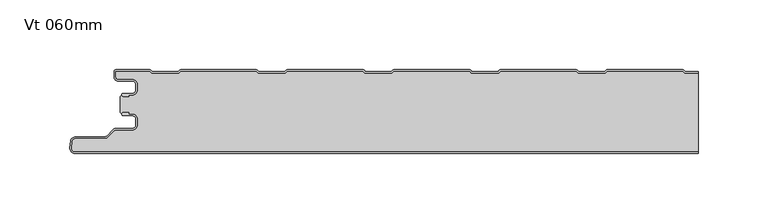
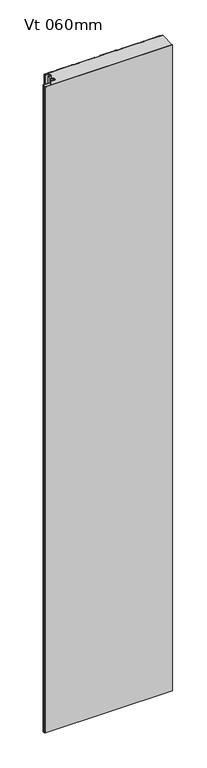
"""IFC4 building model written with IfcOpenShell, lengths in millimetres: plate geometry, KIP-MEX-KSS-1067-R19-CP-Vt-OP_SL : Vt 060mm."""

from ifc_helpers import new_model, si_unit, point, frame, frame_2d, origin, origin_with_axes, place, context, project, spatial, polyline, circle_curve, trimmed, segment, composite_curve, outline, extrude, source, transform, mapped, element, save
from ifc_brep_helpers import plane_surface, cylinder_surface, revolved_surface, advanced_brep


def vt_060mm_0d96d6be(model_context):
    return source(origin(), model_context, "Body", "SolidModel", [
        advanced_brep(
        [(-204.468691, -17.0015159, 2400.0), (-205.4686883, -18.0015191, 2400.0), (-204.468691, -19.0015105, 2400.0), (-200.4684874, -19.0015105, 2400.0), (-200.4684874, -18.0015159, 2400.0), (-197.7762776, -18.0015159, 2400.0), (-194.4762819, -14.7015202, 2400.0), (-194.4762819, -10.301529, 2400.0), (-197.7762774, -7.0015335, 2400.0), (-208.1962563, -7.0015335, 2400.0), (-209.9662505, -5.2315393, 2400.0), (-209.9662505, -0.9999916, 2400.0), (-185.4659738, -0.9999916, 2400.0), (-184.0803312, -2.2002307, 2400.0), (-164.7051649, -2.2002307, 2400.0), (-163.319532, -1.0, 2400.0), (-109.2661166, -1.0, 2400.0), (-107.8804836, -2.2002307, 2400.0), (-88.5053173, -2.2002307, 2400.0), (-87.1196844, -1.0, 2400.0), (-33.066269, -1.0, 2400.0), (-31.680636, -2.2002307, 2400.0), (-12.3054697, -2.2002307, 2400.0), (-10.9198368, -1.0, 2400.0), (43.1335786, -1.0, 2400.0), (44.5192116, -2.2002307, 2400.0), (63.8943779, -2.2002307, 2400.0), (65.2800108, -1.0, 2400.0), (119.3334262, -1.0, 2400.0), (120.7190592, -2.2002307, 2400.0), (140.0942255, -2.2002307, 2400.0), (141.4798584, -1.0, 2400.0), (195.5332738, -1.0, 2400.0), (196.9189068, -2.2002307, 2400.0), (206.4999998, -2.2002307, 2400.0), (206.4999998, -1.2002307, 2400.0), (197.2917872, -1.2002307, 2400.0), (196.3007396, -0.3417885, 2400.0), (195.3841227, 0.0, 2400.0), (141.6290096, 0.0, 2400.0), (140.7123927, -0.3417885, 2400.0), (139.7213451, -1.2002307, 2400.0), (121.0919396, -1.2002307, 2400.0), (120.100892, -0.3417885, 2400.0), (119.1842751, 0.0, 2400.0), (65.429162, 0.0, 2400.0), (64.5125451, -0.3417885, 2400.0), (63.5214975, -1.2002307, 2400.0), (44.892092, -1.2002307, 2400.0), (43.9010444, -0.3417885, 2400.0), (42.9844275, 0.0, 2400.0), (-10.7706856, 0.0, 2400.0), (-11.6873025, -0.3417885, 2400.0), (-12.6783501, -1.2002307, 2400.0), (-31.3077556, -1.2002307, 2400.0), (-32.2988032, -0.3417885, 2400.0), (-33.2154201, 0.0, 2400.0), (-86.9705332, 0.0, 2400.0), (-87.8871501, -0.3417885, 2400.0), (-88.8781977, -1.2002307, 2400.0), (-107.5076032, -1.2002307, 2400.0), (-108.4986508, -0.3417885, 2400.0), (-109.4152677, 0.0, 2400.0), (-163.1703808, 0.0, 2400.0), (-164.0869977, -0.3417885, 2400.0), (-165.0780453, -1.2002307, 2400.0), (-183.7074508, -1.2002307, 2400.0), (-184.6984984, -0.3417885, 2400.0), (-185.6152067, 0.0, 2400.0), (-209.5662543, 8.4e-06, 2400.0), (-210.9662505, -1.3999878, 2400.0), (-210.9662505, -5.2315393, 2400.0), (-208.1962563, -8.0015335, 2400.0), (-197.7762774, -8.0015335, 2400.0), (-195.4762819, -10.301529, 2400.0), (-195.4762819, -14.7015202, 2400.0), (-197.7762776, -17.0015159, 2400.0), (-204.468691, -17.0015159, 0.0), (-197.7762776, -17.0015159, 0.0), (-195.4762819, -14.7015202, 0.0), (-195.4762819, -10.301529, 0.0), (-197.7762774, -8.0015335, 0.0), (-208.1962563, -8.0015335, 0.0), (-210.9662505, -5.2315393, 0.0), (-210.9662505, -1.3999878, 0.0), (-209.5662543, 8.4e-06, 0.0), (-185.6151153, 8.4e-06, 0.0), (-184.6984984, -0.3417885, 0.0), (-183.7074508, -1.2002307, 0.0), (-165.0780453, -1.2002307, 0.0), (-164.0869977, -0.3417885, 0.0), (-163.1703808, 0.0, 0.0), (-109.4152677, 0.0, 0.0), (-108.4986508, -0.3417885, 0.0), (-107.5076032, -1.2002307, 0.0), (-88.8781977, -1.2002307, 0.0), (-87.8871501, -0.3417885, 0.0), (-86.9705332, 0.0, 0.0), (-33.2154201, 0.0, 0.0), (-32.2988032, -0.3417885, 0.0), (-31.3077556, -1.2002307, 0.0), (-12.6783501, -1.2002307, 0.0), (-11.6873025, -0.3417885, 0.0), (-10.7706856, 0.0, 0.0), (42.9844275, 0.0, 0.0), (43.9010444, -0.3417885, 0.0), (44.892092, -1.2002307, 0.0), (63.5214975, -1.2002307, 0.0), (64.5125451, -0.3417885, 0.0), (65.429162, 0.0, 0.0), (119.1842751, 0.0, 0.0), (120.100892, -0.3417885, 0.0), (121.0919396, -1.2002307, 0.0), (139.7213451, -1.2002307, 0.0), (140.7123927, -0.3417885, 0.0), (141.6290096, 0.0, 0.0), (195.3841227, 0.0, 0.0), (196.3007396, -0.3417885, 0.0), (197.2917872, -1.2002307, 0.0), (206.4999998, -1.2002307, 0.0), (206.4999998, -2.2002307, 0.0), (196.9189068, -2.2002307, 0.0), (195.5332738, -1.0, 0.0), (141.4798584, -1.0, 0.0), (140.0942255, -2.2002307, 0.0), (120.7190592, -2.2002307, 0.0), (119.3334262, -1.0, 0.0), (65.2800108, -1.0, 0.0), (63.8943779, -2.2002307, 0.0), (44.5192116, -2.2002307, 0.0), (43.1335786, -1.0, 0.0), (-10.9198368, -1.0, 0.0), (-12.3054697, -2.2002307, 0.0), (-31.680636, -2.2002307, 0.0), (-33.066269, -1.0, 0.0), (-87.1196844, -1.0, 0.0), (-88.5053173, -2.2002307, 0.0), (-107.8804836, -2.2002307, 0.0), (-109.2661166, -1.0, 0.0), (-163.319532, -1.0, 0.0), (-164.7051649, -2.2002307, 0.0), (-184.0803312, -2.2002307, 0.0), (-185.4659738, -0.9999916, 0.0), (-209.9662505, -0.9999916, 0.0), (-209.9662505, -5.2315393, 0.0), (-208.1962563, -7.0015335, 0.0), (-197.7762774, -7.0015335, 0.0), (-194.4762819, -10.301529, 0.0), (-194.4762819, -14.7015202, 0.0), (-197.7762776, -18.0015159, 0.0), (-200.4684874, -18.0015159, 0.0), (-200.4684874, -19.0015105, 0.0), (-204.468691, -19.0015105, 0.0), (-205.4686882, -18.0015192, 0.0)],
        [
            (0, 1, circle_curve(frame((-204.468691, -18.0015132, 2400.0), z_axis=(0.0, 0.0, 1.0), x_axis=(1.0, 0.0, 0.0)), 0.9999973)),
            (1, 2, circle_curve(frame((-204.468691, -18.0015133, 2400.0), z_axis=(0.0, 0.0, 1.0), x_axis=(1.0, 0.0, 0.0)), 0.9999972)),
            (2, 3),
            (3, 4),
            (4, 5),
            (5, 6, circle_curve(frame((-197.7762776, -14.7015202, 2400.0), z_axis=(0.0, 0.0, 1.0), x_axis=(1.0, 0.0, 0.0)), 3.2999957)),
            (6, 7),
            (7, 8, circle_curve(frame((-197.7762774, -10.301529, 2400.0), z_axis=(0.0, 0.0, 1.0), x_axis=(1.0, 0.0, 0.0)), 3.2999955)),
            (8, 9),
            (9, 10, circle_curve(frame((-208.1962563, -5.2315393, 2400.0), z_axis=(0.0, 0.0, -1.0), x_axis=(1.0, 0.0, 0.0)), 1.7699942)),
            (10, 11),
            (11, 12),
            (12, 13),
            (13, 14),
            (14, 15),
            (15, 16),
            (16, 17),
            (17, 18),
            (18, 19),
            (19, 20),
            (20, 21),
            (21, 22),
            (22, 23),
            (23, 24),
            (24, 25),
            (25, 26),
            (26, 27),
            (27, 28),
            (28, 29),
            (29, 30),
            (30, 31),
            (31, 32),
            (32, 33),
            (33, 34),
            (34, 35),
            (35, 36),
            (36, 37),
            (37, 38, circle_curve(frame((195.3841227, -1.3999972, 2400.0), z_axis=(0.0, 0.0, 1.0), x_axis=(1.0, 0.0, 0.0)), 1.3999972)),
            (38, 39),
            (39, 40, circle_curve(frame((141.6290096, -1.3999972, 2400.0), z_axis=(0.0, 0.0, 1.0), x_axis=(1.0, 0.0, 0.0)), 1.3999972)),
            (40, 41),
            (41, 42),
            (42, 43),
            (43, 44, circle_curve(frame((119.1842751, -1.3999972, 2400.0), z_axis=(0.0, 0.0, 1.0), x_axis=(1.0, 0.0, 0.0)), 1.3999972)),
            (44, 45),
            (45, 46, circle_curve(frame((65.429162, -1.3999972, 2400.0), z_axis=(0.0, 0.0, 1.0), x_axis=(1.0, 0.0, 0.0)), 1.3999972)),
            (46, 47),
            (47, 48),
            (48, 49),
            (49, 50, circle_curve(frame((42.9844275, -1.3999972, 2400.0), z_axis=(0.0, 0.0, 1.0), x_axis=(1.0, 0.0, 0.0)), 1.3999972)),
            (50, 51),
            (51, 52, circle_curve(frame((-10.7706856, -1.3999972, 2400.0), z_axis=(0.0, 0.0, 1.0), x_axis=(1.0, 0.0, 0.0)), 1.3999972)),
            (52, 53),
            (53, 54),
            (54, 55),
            (55, 56, circle_curve(frame((-33.2154201, -1.3999972, 2400.0), z_axis=(0.0, 0.0, 1.0), x_axis=(1.0, 0.0, 0.0)), 1.3999972)),
            (56, 57),
            (57, 58, circle_curve(frame((-86.9705332, -1.3999972, 2400.0), z_axis=(0.0, 0.0, 1.0), x_axis=(1.0, 0.0, 0.0)), 1.3999972)),
            (58, 59),
            (59, 60),
            (60, 61),
            (61, 62, circle_curve(frame((-109.4152677, -1.3999972, 2400.0), z_axis=(0.0, 0.0, 1.0), x_axis=(1.0, 0.0, 0.0)), 1.3999972)),
            (62, 63),
            (63, 64, circle_curve(frame((-163.1703808, -1.3999972, 2400.0), z_axis=(0.0, 0.0, 1.0), x_axis=(1.0, 0.0, 0.0)), 1.3999972)),
            (64, 65),
            (65, 66),
            (66, 67),
            (67, 68, circle_curve(frame((-185.6151153, -1.3999972, 2400.0), z_axis=(0.0, 0.0, 1.0), x_axis=(1.0, 0.0, 0.0)), 1.3999972)),
            (68, 69),
            (69, 70, circle_curve(frame((-209.5662543, -1.3999878, 2400.0), z_axis=(0.0, 0.0, 1.0), x_axis=(1.0, 0.0, 0.0)), 1.3999962)),
            (70, 71),
            (71, 72, circle_curve(frame((-208.1962563, -5.2315393, 2400.0), z_axis=(0.0, 0.0, 1.0), x_axis=(1.0, 0.0, 0.0)), 2.7699942)),
            (72, 73),
            (73, 74, circle_curve(frame((-197.7762774, -10.301529, 2400.0), z_axis=(0.0, 0.0, -1.0), x_axis=(1.0, 0.0, 0.0)), 2.2999955)),
            (74, 75),
            (75, 76, circle_curve(frame((-197.7762776, -14.7015202, 2400.0), z_axis=(0.0, 0.0, -1.0), x_axis=(1.0, 0.0, 0.0)), 2.2999957)),
            (76, 0),
            (77, 78),
            (78, 79, circle_curve(frame((-197.7762776, -14.7015202, 0.0), z_axis=(0.0, 0.0, 1.0), x_axis=(1.0, 0.0, 0.0)), 2.2999957)),
            (79, 80),
            (80, 81, circle_curve(frame((-197.7762774, -10.301529, 0.0), z_axis=(0.0, 0.0, 1.0), x_axis=(1.0, 0.0, 0.0)), 2.2999955)),
            (81, 82),
            (82, 83, circle_curve(frame((-208.1962563, -5.2315393, 0.0), z_axis=(0.0, 0.0, -1.0), x_axis=(1.0, 0.0, 0.0)), 2.7699942)),
            (83, 84),
            (84, 85, circle_curve(frame((-209.5662543, -1.3999878, 0.0), z_axis=(0.0, 0.0, -1.0), x_axis=(1.0, 0.0, 0.0)), 1.3999962)),
            (85, 86),
            (86, 87, circle_curve(frame((-185.6151153, -1.3999972, 0.0), z_axis=(0.0, 0.0, -1.0), x_axis=(1.0, 0.0, 0.0)), 1.3999972)),
            (87, 88),
            (88, 89),
            (89, 90),
            (90, 91, circle_curve(frame((-163.1703808, -1.3999972, 0.0), z_axis=(0.0, 0.0, -1.0), x_axis=(1.0, 0.0, 0.0)), 1.3999972)),
            (91, 92),
            (92, 93, circle_curve(frame((-109.4152677, -1.3999972, 0.0), z_axis=(0.0, 0.0, -1.0), x_axis=(1.0, 0.0, 0.0)), 1.3999972)),
            (93, 94),
            (94, 95),
            (95, 96),
            (96, 97, circle_curve(frame((-86.9705332, -1.3999972, 0.0), z_axis=(0.0, 0.0, -1.0), x_axis=(1.0, 0.0, 0.0)), 1.3999972)),
            (97, 98),
            (98, 99, circle_curve(frame((-33.2154201, -1.3999972, 0.0), z_axis=(0.0, 0.0, -1.0), x_axis=(1.0, 0.0, 0.0)), 1.3999972)),
            (99, 100),
            (100, 101),
            (101, 102),
            (102, 103, circle_curve(frame((-10.7706856, -1.3999972, 0.0), z_axis=(0.0, 0.0, -1.0), x_axis=(1.0, 0.0, 0.0)), 1.3999972)),
            (103, 104),
            (104, 105, circle_curve(frame((42.9844275, -1.3999972, 0.0), z_axis=(0.0, 0.0, -1.0), x_axis=(1.0, 0.0, 0.0)), 1.3999972)),
            (105, 106),
            (106, 107),
            (107, 108),
            (108, 109, circle_curve(frame((65.429162, -1.3999972, 0.0), z_axis=(0.0, 0.0, -1.0), x_axis=(1.0, 0.0, 0.0)), 1.3999972)),
            (109, 110),
            (110, 111, circle_curve(frame((119.1842751, -1.3999972, 0.0), z_axis=(0.0, 0.0, -1.0), x_axis=(1.0, 0.0, 0.0)), 1.3999972)),
            (111, 112),
            (112, 113),
            (113, 114),
            (114, 115, circle_curve(frame((141.6290096, -1.3999972, 0.0), z_axis=(0.0, 0.0, -1.0), x_axis=(1.0, 0.0, 0.0)), 1.3999972)),
            (115, 116),
            (116, 117, circle_curve(frame((195.3841227, -1.3999972, 0.0), z_axis=(0.0, 0.0, -1.0), x_axis=(1.0, 0.0, 0.0)), 1.3999972)),
            (117, 118),
            (118, 119),
            (119, 120),
            (120, 121),
            (121, 122),
            (122, 123),
            (123, 124),
            (124, 125),
            (125, 126),
            (126, 127),
            (127, 128),
            (128, 129),
            (129, 130),
            (130, 131),
            (131, 132),
            (132, 133),
            (133, 134),
            (134, 135),
            (135, 136),
            (136, 137),
            (137, 138),
            (138, 139),
            (139, 140),
            (140, 141),
            (141, 142),
            (142, 143),
            (143, 144),
            (144, 145, circle_curve(frame((-208.1962563, -5.2315393, 0.0), z_axis=(0.0, 0.0, 1.0), x_axis=(1.0, 0.0, 0.0)), 1.7699942)),
            (145, 146),
            (146, 147, circle_curve(frame((-197.7762774, -10.301529, 0.0), z_axis=(0.0, 0.0, -1.0), x_axis=(1.0, 0.0, 0.0)), 3.2999955)),
            (147, 148),
            (148, 149, circle_curve(frame((-197.7762776, -14.7015202, 0.0), z_axis=(0.0, 0.0, -1.0), x_axis=(1.0, 0.0, 0.0)), 3.2999957)),
            (149, 150),
            (150, 151),
            (151, 152),
            (152, 153, circle_curve(frame((-204.468691, -18.0015133, 0.0), z_axis=(0.0, 0.0, -1.0), x_axis=(1.0, 0.0, 0.0)), 0.9999972)),
            (153, 77, circle_curve(frame((-204.468691, -18.0015132, 0.0), z_axis=(0.0, 0.0, -1.0), x_axis=(1.0, 0.0, 0.0)), 0.9999973)),
            (76, 78),
            (77, 0),
            (75, 79),
            (74, 80),
            (73, 81),
            (72, 82),
            (71, 83),
            (70, 84),
            (69, 85),
            (68, 86),
            (67, 87),
            (66, 88),
            (65, 89),
            (64, 90),
            (63, 91),
            (62, 92),
            (61, 93),
            (60, 94),
            (59, 95),
            (58, 96),
            (57, 97),
            (56, 98),
            (55, 99),
            (54, 100),
            (53, 101),
            (52, 102),
            (51, 103),
            (50, 104),
            (49, 105),
            (48, 106),
            (47, 107),
            (46, 108),
            (45, 109),
            (44, 110),
            (43, 111),
            (42, 112),
            (41, 113),
            (40, 114),
            (39, 115),
            (38, 116),
            (37, 117),
            (36, 118),
            (35, 119),
            (120, 34),
            (33, 121),
            (32, 122),
            (31, 123),
            (30, 124),
            (29, 125),
            (28, 126),
            (27, 127),
            (26, 128),
            (25, 129),
            (24, 130),
            (23, 131),
            (22, 132),
            (21, 133),
            (20, 134),
            (19, 135),
            (18, 136),
            (17, 137),
            (16, 138),
            (15, 139),
            (14, 140),
            (13, 141),
            (12, 142),
            (11, 143),
            (10, 144),
            (9, 145),
            (8, 146),
            (7, 147),
            (6, 148),
            (5, 149),
            (4, 150),
            (3, 151),
            (2, 152),
            (1, 153),
        ],
        [
            plane_surface(frame((326.9000002, 0.0, 2400.0), z_axis=(0.0, 0.0, 1.0), x_axis=(0.0, 1.0, 0.0))),
            plane_surface(frame((326.9000002, 0.0, 0.0), z_axis=(0.0, 0.0, -1.0), x_axis=(0.0, 1.0, 0.0))),
            plane_surface(frame((-204.468691, -17.0015159, 2400.0), z_axis=(0.0, 1.0, 0.0), x_axis=(0.0, 0.0, -1.0))),
            revolved_surface(polyline([(-195.47628189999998, -14.7015202, 0.0), (-195.47628189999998, -14.7015202, 2400.0)]), (-197.7762776, -14.7015202, 2400.0), (0.0, 0.0, -1.0)),
            plane_surface(frame((-195.4762819, -14.7015202, 2400.0), z_axis=(-1.0, 0.0, 0.0), x_axis=(0.0, 0.0, -1.0))),
            revolved_surface(polyline([(-195.4762819, -10.301529, 0.0), (-195.4762819, -10.301529, 2400.0)]), (-197.7762774, -10.301529, 2400.0), (0.0, 0.0, -1.0)),
            plane_surface(frame((-197.7762774, -8.0015335, 2400.0), z_axis=(0.0, -1.0, 0.0), x_axis=(0.0, 0.0, -1.0))),
            cylinder_surface(frame((-208.1962563, -5.2315393, 2400.0), z_axis=(0.0, 0.0, 1.0), x_axis=(1.0, 0.0, 0.0)), 2.7699942),
            plane_surface(frame((-210.9662505, -5.2315393, 2400.0), z_axis=(-1.0, 0.0, 0.0), x_axis=(0.0, 0.0, -1.0))),
            cylinder_surface(frame((-209.5662543, -1.3999878, 2400.0), z_axis=(0.0, 0.0, 1.0), x_axis=(1.0, 0.0, 0.0)), 1.3999962),
            plane_surface(frame((-209.5662543, 8.4e-06, 2400.0), z_axis=(0.0, 1.0, 0.0), x_axis=(0.0, 0.0, -1.0))),
            cylinder_surface(frame((-185.6151153, -1.3999972, 2400.0), z_axis=(0.0, 0.0, 1.0), x_axis=(1.0, 0.0, 0.0)), 1.3999972),
            plane_surface(frame((-184.6984984, -0.3417885, 2400.0), z_axis=(0.6547276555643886, 0.755864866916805, 0.0), x_axis=(0.0, 0.0, -1.0))),
            plane_surface(frame((-174.3927481, -1.2002307, 2400.0), z_axis=(0.0, 1.0, 0.0), x_axis=(0.0, 0.0, -1.0))),
            plane_surface(frame((-165.0780453, -1.2002307, 2400.0), z_axis=(-0.6547276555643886, 0.755864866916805, 0.0), x_axis=(0.0, 0.0, -1.0))),
            cylinder_surface(frame((-163.1703808, -1.3999972, 2400.0), z_axis=(0.0, 0.0, 1.0), x_axis=(1.0, 0.0, 0.0)), 1.3999972),
            plane_surface(frame((-163.1703808, 0.0, 2400.0), z_axis=(0.0, 1.0, 0.0), x_axis=(0.0, 0.0, -1.0))),
            cylinder_surface(frame((-109.4152677, -1.3999972, 2400.0), z_axis=(0.0, 0.0, 1.0), x_axis=(1.0, 0.0, 0.0)), 1.3999972),
            plane_surface(frame((-108.4986508, -0.3417885, 2400.0), z_axis=(0.6547276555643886, 0.755864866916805, 0.0), x_axis=(0.0, 0.0, -1.0))),
            plane_surface(frame((-98.1929005, -1.2002307, 2400.0), z_axis=(0.0, 1.0, 0.0), x_axis=(0.0, 0.0, -1.0))),
            plane_surface(frame((-88.8781977, -1.2002307, 2400.0), z_axis=(-0.6547276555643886, 0.755864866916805, 0.0), x_axis=(0.0, 0.0, -1.0))),
            cylinder_surface(frame((-86.9705332, -1.3999972, 2400.0), z_axis=(0.0, 0.0, 1.0), x_axis=(1.0, 0.0, 0.0)), 1.3999972),
            plane_surface(frame((-86.9705332, 0.0, 2400.0), z_axis=(0.0, 1.0, 0.0), x_axis=(0.0, 0.0, -1.0))),
            cylinder_surface(frame((-33.2154201, -1.3999972, 2400.0), z_axis=(0.0, 0.0, 1.0), x_axis=(1.0, 0.0, 0.0)), 1.3999972),
            plane_surface(frame((-32.2988032, -0.3417885, 2400.0), z_axis=(0.6547276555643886, 0.755864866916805, 0.0), x_axis=(0.0, 0.0, -1.0))),
            plane_surface(frame((-21.9930529, -1.2002307, 2400.0), z_axis=(0.0, 1.0, 0.0), x_axis=(0.0, 0.0, -1.0))),
            plane_surface(frame((-12.6783501, -1.2002307, 2400.0), z_axis=(-0.6547276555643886, 0.755864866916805, 0.0), x_axis=(0.0, 0.0, -1.0))),
            cylinder_surface(frame((-10.7706856, -1.3999972, 2400.0), z_axis=(0.0, 0.0, 1.0), x_axis=(1.0, 0.0, 0.0)), 1.3999972),
            plane_surface(frame((-10.7706856, 0.0, 2400.0), z_axis=(0.0, 1.0, 0.0), x_axis=(0.0, 0.0, -1.0))),
            cylinder_surface(frame((42.9844275, -1.3999972, 2400.0), z_axis=(0.0, 0.0, 1.0), x_axis=(1.0, 0.0, 0.0)), 1.3999972),
            plane_surface(frame((43.9010444, -0.3417885, 2400.0), z_axis=(0.6547276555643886, 0.755864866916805, 0.0), x_axis=(0.0, 0.0, -1.0))),
            plane_surface(frame((54.2067947, -1.2002307, 2400.0), z_axis=(0.0, 1.0, 0.0), x_axis=(0.0, 0.0, -1.0))),
            plane_surface(frame((63.5214975, -1.2002307, 2400.0), z_axis=(-0.6547276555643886, 0.755864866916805, 0.0), x_axis=(0.0, 0.0, -1.0))),
            cylinder_surface(frame((65.429162, -1.3999972, 2400.0), z_axis=(0.0, 0.0, 1.0), x_axis=(1.0, 0.0, 0.0)), 1.3999972),
            plane_surface(frame((65.429162, 0.0, 2400.0), z_axis=(0.0, 1.0, 0.0), x_axis=(0.0, 0.0, -1.0))),
            cylinder_surface(frame((119.1842751, -1.3999972, 2400.0), z_axis=(0.0, 0.0, 1.0), x_axis=(1.0, 0.0, 0.0)), 1.3999972),
            plane_surface(frame((120.100892, -0.3417885, 2400.0), z_axis=(0.6547276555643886, 0.755864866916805, 0.0), x_axis=(0.0, 0.0, -1.0))),
            plane_surface(frame((130.4066423, -1.2002307, 2400.0), z_axis=(0.0, 1.0, 0.0), x_axis=(0.0, 0.0, -1.0))),
            plane_surface(frame((139.7213451, -1.2002307, 2400.0), z_axis=(-0.6547276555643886, 0.755864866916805, 0.0), x_axis=(0.0, 0.0, -1.0))),
            cylinder_surface(frame((141.6290096, -1.3999972, 2400.0), z_axis=(0.0, 0.0, 1.0), x_axis=(1.0, 0.0, 0.0)), 1.3999972),
            plane_surface(frame((141.6290096, 0.0, 2400.0), z_axis=(0.0, 1.0, 0.0), x_axis=(0.0, 0.0, -1.0))),
            cylinder_surface(frame((195.3841227, -1.3999972, 2400.0), z_axis=(0.0, 0.0, 1.0), x_axis=(1.0, 0.0, 0.0)), 1.3999972),
            plane_surface(frame((196.3007396, -0.3417885, 2400.0), z_axis=(0.6547276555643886, 0.755864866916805, 0.0), x_axis=(0.0, 0.0, -1.0))),
            plane_surface(frame((206.6064899, -1.2002307, 2400.0), z_axis=(0.0, 1.0, 0.0), x_axis=(0.0, 0.0, -1.0))),
            plane_surface(frame((216.2940731, -2.2002307, 2400.0), z_axis=(0.0, -1.0, 0.0), x_axis=(0.0, 0.0, -1.0))),
            plane_surface(frame((196.9189068, -2.2002307, 2400.0), z_axis=(-0.6547276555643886, -0.755864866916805, 0.0), x_axis=(0.0, 0.0, -1.0))),
            plane_surface(frame((195.5332738, -1.0, 2400.0), z_axis=(0.0, -1.0, 0.0), x_axis=(0.0, 0.0, -1.0))),
            plane_surface(frame((141.4798584, -1.0, 2400.0), z_axis=(0.6547276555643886, -0.755864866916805, 0.0), x_axis=(0.0, 0.0, -1.0))),
            plane_surface(frame((140.0942255, -2.2002307, 2400.0), z_axis=(0.0, -1.0, 0.0), x_axis=(0.0, 0.0, -1.0))),
            plane_surface(frame((120.7190592, -2.2002307, 2400.0), z_axis=(-0.6547276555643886, -0.755864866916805, 0.0), x_axis=(0.0, 0.0, -1.0))),
            plane_surface(frame((119.3334262, -1.0, 2400.0), z_axis=(0.0, -1.0, 0.0), x_axis=(0.0, 0.0, -1.0))),
            plane_surface(frame((65.2800108, -1.0, 2400.0), z_axis=(0.6547276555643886, -0.755864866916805, 0.0), x_axis=(0.0, 0.0, -1.0))),
            plane_surface(frame((63.8943779, -2.2002307, 2400.0), z_axis=(0.0, -1.0, 0.0), x_axis=(0.0, 0.0, -1.0))),
            plane_surface(frame((44.5192116, -2.2002307, 2400.0), z_axis=(-0.6547276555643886, -0.755864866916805, 0.0), x_axis=(0.0, 0.0, -1.0))),
            plane_surface(frame((43.1335786, -1.0, 2400.0), z_axis=(0.0, -1.0, 0.0), x_axis=(0.0, 0.0, -1.0))),
            plane_surface(frame((-10.9198368, -1.0, 2400.0), z_axis=(0.6547276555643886, -0.755864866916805, 0.0), x_axis=(0.0, 0.0, -1.0))),
            plane_surface(frame((-12.3054697, -2.2002307, 2400.0), z_axis=(0.0, -1.0, 0.0), x_axis=(0.0, 0.0, -1.0))),
            plane_surface(frame((-31.680636, -2.2002307, 2400.0), z_axis=(-0.6547276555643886, -0.755864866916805, 0.0), x_axis=(0.0, 0.0, -1.0))),
            plane_surface(frame((-33.066269, -1.0, 2400.0), z_axis=(0.0, -1.0, 0.0), x_axis=(0.0, 0.0, -1.0))),
            plane_surface(frame((-87.1196844, -1.0, 2400.0), z_axis=(0.6547276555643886, -0.755864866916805, 0.0), x_axis=(0.0, 0.0, -1.0))),
            plane_surface(frame((-88.5053173, -2.2002307, 2400.0), z_axis=(0.0, -1.0, 0.0), x_axis=(0.0, 0.0, -1.0))),
            plane_surface(frame((-107.8804836, -2.2002307, 2400.0), z_axis=(-0.6547276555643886, -0.755864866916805, 0.0), x_axis=(0.0, 0.0, -1.0))),
            plane_surface(frame((-109.2661166, -1.0, 2400.0), z_axis=(0.0, -1.0, 0.0), x_axis=(0.0, 0.0, -1.0))),
            plane_surface(frame((-163.319532, -1.0, 2400.0), z_axis=(0.6547276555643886, -0.755864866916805, 0.0), x_axis=(0.0, 0.0, -1.0))),
            plane_surface(frame((-164.7051649, -2.2002307, 2400.0), z_axis=(0.0, -1.0, 0.0), x_axis=(0.0, 0.0, -1.0))),
            plane_surface(frame((-184.0803312, -2.2002307, 2400.0), z_axis=(-0.6547276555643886, -0.755864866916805, 0.0), x_axis=(0.0, 0.0, -1.0))),
            plane_surface(frame((-185.4659738, -0.9999916, 2400.0), z_axis=(0.0, -1.0, 0.0), x_axis=(0.0, 0.0, -1.0))),
            plane_surface(frame((-209.9662505, -0.9999916, 2400.0), z_axis=(1.0, 0.0, 0.0), x_axis=(0.0, 0.0, -1.0))),
            revolved_surface(polyline([(-206.42626209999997, -5.2315393, 0.0), (-206.42626209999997, -5.2315393, 2400.0)]), (-208.1962563, -5.2315393, 2400.0), (0.0, 0.0, -1.0)),
            plane_surface(frame((-208.1962563, -7.0015335, 2400.0), z_axis=(0.0, 1.0, 0.0), x_axis=(0.0, 0.0, -1.0))),
            cylinder_surface(frame((-197.7762774, -10.301529, 2400.0), z_axis=(0.0, 0.0, 1.0), x_axis=(1.0, 0.0, 0.0)), 3.2999955),
            plane_surface(frame((-194.4762819, -10.301529, 2400.0), z_axis=(1.0, 0.0, 0.0), x_axis=(0.0, 0.0, -1.0))),
            cylinder_surface(frame((-197.7762776, -14.7015202, 2400.0), z_axis=(0.0, 0.0, 1.0), x_axis=(1.0, 0.0, 0.0)), 3.2999957),
            plane_surface(frame((-197.7762776, -18.0015159, 2400.0), z_axis=(0.0, -1.0, 0.0), x_axis=(0.0, 0.0, -1.0))),
            plane_surface(frame((-200.4684874, -18.0015159, 2400.0), z_axis=(1.0, 0.0, 0.0), x_axis=(0.0, 0.0, -1.0))),
            plane_surface(frame((-200.4684874, -19.0015105, 2400.0), z_axis=(0.0, -1.0, 0.0), x_axis=(0.0, 0.0, -1.0))),
            cylinder_surface(frame((-204.468691, -18.0015133, 2400.0), z_axis=(0.0, 0.0, 1.0), x_axis=(1.0, 0.0, 0.0)), 0.9999972),
            cylinder_surface(frame((-204.468691, -18.0015132, 2400.0), z_axis=(0.0, 0.0, 1.0), x_axis=(1.0, 0.0, 0.0)), 0.9999973),
            plane_surface(frame((206.4999998, -70.0, 2400.0), z_axis=(1.0, 0.0, 0.0), x_axis=(0.0, 0.0, -1.0))),
        ],
        [
            (0, [[1, 2, 3, 4, 5, 6, 7, 8, 9, 10, 11, 12, 13, 14, 15, 16, 17, 18, 19, 20, 21, 22, 23, 24, 25, 26, 27, 28, 29, 30, 31, 32, 33, 34, 35, 36, 37, 38, 39, 40, 41, 42, 43, 44, 45, 46, 47, 48, 49, 50, 51, 52, 53, 54, 55, 56, 57, 58, 59, 60, 61, 62, 63, 64, 65, 66, 67, 68, 69, 70, 71, 72, 73, 74, 75, 76, 77]]),
            (1, [[78, 79, 80, 81, 82, 83, 84, 85, 86, 87, 88, 89, 90, 91, 92, 93, 94, 95, 96, 97, 98, 99, 100, 101, 102, 103, 104, 105, 106, 107, 108, 109, 110, 111, 112, 113, 114, 115, 116, 117, 118, 119, 120, 121, 122, 123, 124, 125, 126, 127, 128, 129, 130, 131, 132, 133, 134, 135, 136, 137, 138, 139, 140, 141, 142, 143, 144, 145, 146, 147, 148, 149, 150, 151, 152, 153, 154]]),
            (2, [[155, -78, 156, -77]]),
            (3, [[157, -79, -155, -76]]),
            (4, [[158, -80, -157, -75]]),
            (5, [[159, -81, -158, -74]]),
            (6, [[160, -82, -159, -73]]),
            (7, [[161, -83, -160, -72]]),
            (8, [[162, -84, -161, -71]]),
            (9, [[163, -85, -162, -70]]),
            (10, [[164, -86, -163, -69]]),
            (11, [[165, -87, -164, -68]]),
            (12, [[166, -88, -165, -67]]),
            (13, [[167, -89, -166, -66]]),
            (14, [[168, -90, -167, -65]]),
            (15, [[169, -91, -168, -64]]),
            (16, [[170, -92, -169, -63]]),
            (17, [[171, -93, -170, -62]]),
            (18, [[172, -94, -171, -61]]),
            (19, [[173, -95, -172, -60]]),
            (20, [[174, -96, -173, -59]]),
            (21, [[175, -97, -174, -58]]),
            (22, [[176, -98, -175, -57]]),
            (23, [[177, -99, -176, -56]]),
            (24, [[178, -100, -177, -55]]),
            (25, [[179, -101, -178, -54]]),
            (26, [[180, -102, -179, -53]]),
            (27, [[181, -103, -180, -52]]),
            (28, [[182, -104, -181, -51]]),
            (29, [[183, -105, -182, -50]]),
            (30, [[184, -106, -183, -49]]),
            (31, [[185, -107, -184, -48]]),
            (32, [[186, -108, -185, -47]]),
            (33, [[187, -109, -186, -46]]),
            (34, [[188, -110, -187, -45]]),
            (35, [[189, -111, -188, -44]]),
            (36, [[190, -112, -189, -43]]),
            (37, [[191, -113, -190, -42]]),
            (38, [[192, -114, -191, -41]]),
            (39, [[193, -115, -192, -40]]),
            (40, [[194, -116, -193, -39]]),
            (41, [[195, -117, -194, -38]]),
            (42, [[196, -118, -195, -37]]),
            (43, [[-36, 197, -119, -196]]),
            (44, [[-121, 198, -34, 199]]),
            (45, [[200, -122, -199, -33]]),
            (46, [[201, -123, -200, -32]]),
            (47, [[202, -124, -201, -31]]),
            (48, [[203, -125, -202, -30]]),
            (49, [[204, -126, -203, -29]]),
            (50, [[205, -127, -204, -28]]),
            (51, [[206, -128, -205, -27]]),
            (52, [[207, -129, -206, -26]]),
            (53, [[208, -130, -207, -25]]),
            (54, [[209, -131, -208, -24]]),
            (55, [[210, -132, -209, -23]]),
            (56, [[211, -133, -210, -22]]),
            (57, [[212, -134, -211, -21]]),
            (58, [[213, -135, -212, -20]]),
            (59, [[214, -136, -213, -19]]),
            (60, [[215, -137, -214, -18]]),
            (61, [[216, -138, -215, -17]]),
            (62, [[217, -139, -216, -16]]),
            (63, [[218, -140, -217, -15]]),
            (64, [[219, -141, -218, -14]]),
            (65, [[220, -142, -219, -13]]),
            (66, [[221, -143, -220, -12]]),
            (67, [[222, -144, -221, -11]]),
            (68, [[223, -145, -222, -10]]),
            (69, [[224, -146, -223, -9]]),
            (70, [[225, -147, -224, -8]]),
            (71, [[226, -148, -225, -7]]),
            (72, [[227, -149, -226, -6]]),
            (73, [[228, -150, -227, -5]]),
            (74, [[229, -151, -228, -4]]),
            (75, [[230, -152, -229, -3]]),
            (76, [[231, -153, -230, -2]]),
            (77, [[-156, -154, -231, -1]]),
            (78, [[-198, -120, -197, -35]]),
        ],
    ),
        extrude(outline(composite_curve([segment(polyline([(-242.5087619, -56.1184903), (-242.0690674, -51.0944437)]), True, "CONTINUOUS"), segment(trimmed(circle_curve(frame_2d((-238.4198391, -51.7052448)), 3.6999926), [point((-242.0690674, -51.0944437))], [point((-238.4198391, -48.0052522))], False, "CARTESIAN"), True, "CONTINUOUS"), segment(polyline([(-238.4198391, -48.0052522), (-217.2773995, -48.0052522)]), True, "CONTINUOUS"), segment(trimmed(circle_curve(frame_2d((-217.2773995, -46.7052548)), 1.2999974), [point((-217.2773995, -48.0052522))], [point((-216.3581626, -47.6244918))], True, "CARTESIAN"), True, "CONTINUOUS"), segment(polyline([(-216.3581626, -47.6244918), (-211.5297451, -42.7960743)]), True, "CONTINUOUS"), segment(trimmed(circle_curve(frame_2d((-209.6205606, -44.7052588)), 2.6999946), [point((-211.5297451, -42.7960743))], [point((-209.6205606, -42.0052642))], False, "CARTESIAN"), True, "CONTINUOUS"), segment(polyline([(-209.6205606, -42.0052642), (-197.8096715, -42.0052642)]), True, "CONTINUOUS"), segment(trimmed(circle_curve(frame_2d((-197.8096715, -39.6552689)), 2.3499953), [point((-197.8096715, -42.0052642))], [point((-195.4596762, -39.6552689))], True, "CARTESIAN"), True, "CONTINUOUS"), segment(polyline([(-195.4596762, -39.6552689), (-195.4596762, -35.2552777)]), True, "CONTINUOUS"), segment(trimmed(circle_curve(frame_2d((-197.8096715, -35.2552777)), 2.3499953), [point((-195.4596762, -35.2552777))], [point((-197.8096715, -32.9052824))], True, "CARTESIAN"), True, "CONTINUOUS"), segment(polyline([(-197.8096715, -32.9052824), (-204.3289777, -32.9052824)]), True, "CONTINUOUS"), segment(trimmed(circle_curve(frame_2d((-204.2686906, -31.7068002)), 1.1999976), [point((-204.3289777, -32.9052824))], [point((-205.4683, -31.6762782))], False, "CARTESIAN"), True, "CONTINUOUS"), segment(trimmed(circle_curve(frame_2d((-204.2686906, -31.7068002)), 1.1999976), [point((-205.4683, -31.6762782))], [point((-204.267176, -30.5068035))], False, "CARTESIAN"), True, "CONTINUOUS"), segment(polyline([(-204.267176, -30.5068035), (-200.5087826, -30.5068035), (-200.5087826, -31.9052824), (-197.8096715, -31.9052824)]), True, "CONTINUOUS"), segment(trimmed(circle_curve(frame_2d((-197.8096715, -35.2552777)), 3.3499953), [point((-197.8096715, -31.9052824))], [point((-194.4596762, -35.2552777))], False, "CARTESIAN"), True, "CONTINUOUS"), segment(polyline([(-194.4596762, -35.2552777), (-194.4596762, -39.6552689)]), True, "CONTINUOUS"), segment(trimmed(circle_curve(frame_2d((-197.8096715, -39.6552689)), 3.3499953), [point((-194.4596762, -39.6552689))], [point((-197.8096715, -43.0052642))], False, "CARTESIAN"), True, "CONTINUOUS"), segment(polyline([(-197.8096715, -43.0052642), (-209.6205606, -43.0052642)]), True, "CONTINUOUS"), segment(trimmed(circle_curve(frame_2d((-209.6205606, -44.7052588)), 1.6999946), [point((-209.6205606, -43.0052642))], [point((-210.8226383, -43.5031811))], True, "CARTESIAN"), True, "CONTINUOUS"), segment(polyline([(-210.8226383, -43.5031811), (-216.3247094, -49.0052522), (-238.4198391, -49.0052522)]), True, "CONTINUOUS"), segment(trimmed(circle_curve(frame_2d((-238.4198391, -51.7052448)), 2.6999926), [point((-238.4198391, -49.0052522))], [point((-241.0765707, -51.2238542))], True, "CARTESIAN"), True, "CONTINUOUS"), segment(polyline([(-241.0765707, -51.2238542), (-241.5125697, -56.2056751)]), True, "CONTINUOUS"), segment(trimmed(circle_curve(frame_2d((-238.9521175, -56.4297607)), 2.5702393), [point((-241.5125697, -56.2056751))], [point((-239.0094458, -58.9993606))], True, "CARTESIAN"), True, "CONTINUOUS"), segment(polyline([(-239.0094458, -58.9993606), (206.4999998, -58.9993606), (206.4999998, -60.0), (-238.9521175, -60.0)]), True, "CONTINUOUS"), segment(trimmed(circle_curve(frame_2d((-238.9521175, -56.4297607)), 3.5702393), [point((-238.9521175, -60.0))], [point((-242.5087619, -56.1184903))], False, "CARTESIAN"), True, "CONTINUOUS")], self_intersect=False)), origin_with_axes(), (0.0, 0.0, 1.0), 2400.0),
        advanced_brep(
        [(-205.4683, -31.670875, 2400.0), (-204.267176, -30.5014003, 2400.0), (-200.5087826, -30.5014003, 2400.0), (-200.5087826, -31.8998791, 2400.0), (-197.8096715, -31.8998791, 2400.0), (-194.4596762, -35.2498744, 2400.0), (-194.4596762, -39.6498656, 2400.0), (-197.8096715, -42.9998609, 2400.0), (-209.6205606, -42.9998609, 2400.0), (-210.8226383, -43.4977778, 2400.0), (-216.3247094, -48.9998489, 2400.0), (-238.4198391, -48.9998489, 2400.0), (-241.0765707, -51.2184509, 2400.0), (-241.5125697, -56.2002718, 2400.0), (-238.9521175, -58.9945967, 2400.0), (206.4999998, -59.0, 2400.0), (206.4999998, -2.2002307, 2400.0), (196.9189068, -2.2002307, 2400.0), (195.5332739, -1.0, 2400.0), (141.4798585, -1.0, 2400.0), (140.0942255, -2.2002307, 2400.0), (120.7190592, -2.2002307, 2400.0), (119.3334263, -1.0, 2400.0), (65.2800109, -1.0, 2400.0), (63.8943779, -2.2002307, 2400.0), (44.5192116, -2.2002307, 2400.0), (43.1335787, -1.0, 2400.0), (-10.9198367, -1.0, 2400.0), (-12.3054697, -2.2002307, 2400.0), (-31.680636, -2.2002307, 2400.0), (-33.0662689, -1.0, 2400.0), (-87.1196843, -1.0, 2400.0), (-88.5053173, -2.2002307, 2400.0), (-107.8804836, -2.2002307, 2400.0), (-109.2661165, -1.0, 2400.0), (-163.3195319, -1.0, 2400.0), (-164.7051649, -2.2002307, 2400.0), (-184.0803312, -2.2002307, 2400.0), (-185.4659738, -0.9999916, 2400.0), (-209.9662504, -0.9999916, 2400.0), (-209.9662504, -5.2315389, 2400.0), (-208.1962562, -7.0015331, 2400.0), (-197.7762777, -7.0015331, 2400.0), (-194.4762818, -10.301529, 2400.0), (-194.4762818, -14.7015202, 2400.0), (-197.7762775, -18.0015159, 2400.0), (-200.4684873, -18.0015159, 2400.0), (-200.4684873, -19.0015105, 2400.0), (-204.468691, -19.0015105, 2400.0), (-205.4686882, -18.0015192, 2400.0), (-206.4999998, -19.0328308, 2400.0), (-206.4999998, -30.6391751, 2400.0), (-205.4683, -31.670875, 0.0), (-206.4999998, -30.6391751, 0.0), (-206.4999998, -19.0328308, 0.0), (-205.4686882, -18.0015192, 0.0), (-204.468691, -19.0015105, 0.0), (-200.4684873, -19.0015105, 0.0), (-200.4684873, -18.0015159, 0.0), (-197.7762775, -18.0015159, 0.0), (-194.4762818, -14.7015202, 0.0), (-194.4762818, -10.301529, 0.0), (-197.7762777, -7.0015331, 0.0), (-208.1962562, -7.0015331, 0.0), (-209.9662504, -5.2315389, 0.0), (-209.9662504, -0.9999916, 0.0), (-185.4659738, -0.9999916, 0.0), (-184.0803312, -2.2002307, 0.0), (-164.7051649, -2.2002307, 0.0), (-163.3195319, -1.0, 0.0), (-109.2661165, -1.0, 0.0), (-107.8804836, -2.2002307, 0.0), (-88.5053173, -2.2002307, 0.0), (-87.1196843, -1.0, 0.0), (-33.0662689, -1.0, 0.0), (-31.680636, -2.2002307, 0.0), (-12.3054697, -2.2002307, 0.0), (-10.9198367, -1.0, 0.0), (43.1335787, -1.0, 0.0), (44.5192116, -2.2002307, 0.0), (63.8943779, -2.2002307, 0.0), (65.2800109, -1.0, 0.0), (119.3334263, -1.0, 0.0), (120.7190592, -2.2002307, 0.0), (140.0942255, -2.2002307, 0.0), (141.4798585, -1.0, 0.0), (195.5332739, -1.0, 0.0), (196.9189068, -2.2002307, 0.0), (206.4999998, -2.2002307, 0.0), (206.4999998, -59.0, 0.0), (-238.9521175, -59.0, 0.0), (-241.5125697, -56.2002718, 0.0), (-241.0765707, -51.2184509, 0.0), (-238.4198391, -48.9998489, 0.0), (-216.3247094, -48.9998489, 0.0), (-210.8226383, -43.4977778, 0.0), (-209.6205606, -42.9998609, 0.0), (-197.8096715, -42.9998609, 0.0), (-194.4596762, -39.6498656, 0.0), (-194.4596762, -35.2498744, 0.0), (-197.8096715, -31.8998791, 0.0), (-200.5087826, -31.8998791, 0.0), (-200.5087826, -30.5014003, 0.0), (-204.267176, -30.5014003, 0.0)],
        [
            (0, 1, circle_curve(frame((-204.2686906, -31.7013969, 2400.0), z_axis=(0.0, 0.0, -1.0), x_axis=(-1.0, 0.0, 0.0)), 1.1999976)),
            (1, 2),
            (2, 3),
            (3, 4),
            (4, 5, circle_curve(frame((-197.8096715, -35.2498744, 2400.0), z_axis=(0.0, 0.0, -1.0), x_axis=(-1.0, 0.0, 0.0)), 3.3499953)),
            (5, 6),
            (6, 7, circle_curve(frame((-197.8096715, -39.6498656, 2400.0), z_axis=(0.0, 0.0, -1.0), x_axis=(-1.0, 0.0, 0.0)), 3.3499953)),
            (7, 8),
            (8, 9, circle_curve(frame((-209.6205606, -44.6998555, 2400.0), z_axis=(0.0, 0.0, 1.0), x_axis=(-1.0, 0.0, 0.0)), 1.6999946)),
            (9, 10),
            (10, 11),
            (11, 12, circle_curve(frame((-238.4198391, -51.6998415, 2400.0), z_axis=(0.0, 0.0, 1.0), x_axis=(-1.0, 0.0, 0.0)), 2.6999926)),
            (12, 13),
            (13, 14, circle_curve(frame((-238.9521175, -56.4243575, 2400.0), z_axis=(0.0, 0.0, 1.0), x_axis=(-1.0, 0.0, 0.0)), 2.5702393)),
            (14, 15),
            (15, 16),
            (16, 17),
            (17, 18),
            (18, 19),
            (19, 20),
            (20, 21),
            (21, 22),
            (22, 23),
            (23, 24),
            (24, 25),
            (25, 26),
            (26, 27),
            (27, 28),
            (28, 29),
            (29, 30),
            (30, 31),
            (31, 32),
            (32, 33),
            (33, 34),
            (34, 35),
            (35, 36),
            (36, 37),
            (37, 38),
            (38, 39),
            (39, 40),
            (40, 41, circle_curve(frame((-208.1962562, -5.2315389, 2400.0), z_axis=(0.0, 0.0, 1.0), x_axis=(-1.0, 0.0, 0.0)), 1.7699942)),
            (41, 42),
            (42, 43, circle_curve(frame((-197.7762777, -10.301529, 2400.0), z_axis=(0.0, 0.0, -1.0), x_axis=(-1.0, 0.0, 0.0)), 3.2999959)),
            (43, 44),
            (44, 45, circle_curve(frame((-197.7762775, -14.7015202, 2400.0), z_axis=(0.0, 0.0, -1.0), x_axis=(-1.0, 0.0, 0.0)), 3.2999957)),
            (45, 46),
            (46, 47),
            (47, 48),
            (48, 49, circle_curve(frame((-204.468691, -18.0015133, 2400.0), z_axis=(0.0, 0.0, -1.0), x_axis=(-1.0, 0.0, 0.0)), 0.9999972)),
            (49, 50),
            (50, 51),
            (51, 0),
            (52, 53),
            (53, 54),
            (54, 55),
            (55, 56, circle_curve(frame((-204.468691, -18.0015133, 0.0), z_axis=(0.0, 0.0, 1.0), x_axis=(-1.0, 0.0, 0.0)), 0.9999972)),
            (56, 57),
            (57, 58),
            (58, 59),
            (59, 60, circle_curve(frame((-197.7762775, -14.7015202, 0.0), z_axis=(0.0, 0.0, 1.0), x_axis=(-1.0, 0.0, 0.0)), 3.2999957)),
            (60, 61),
            (61, 62, circle_curve(frame((-197.7762777, -10.301529, 0.0), z_axis=(0.0, 0.0, 1.0), x_axis=(-1.0, 0.0, 0.0)), 3.2999959)),
            (62, 63),
            (63, 64, circle_curve(frame((-208.1962562, -5.2315389, 0.0), z_axis=(0.0, 0.0, -1.0), x_axis=(-1.0, 0.0, 0.0)), 1.7699942)),
            (64, 65),
            (65, 66),
            (66, 67),
            (67, 68),
            (68, 69),
            (69, 70),
            (70, 71),
            (71, 72),
            (72, 73),
            (73, 74),
            (74, 75),
            (75, 76),
            (76, 77),
            (77, 78),
            (78, 79),
            (79, 80),
            (80, 81),
            (81, 82),
            (82, 83),
            (83, 84),
            (84, 85),
            (85, 86),
            (86, 87),
            (87, 88),
            (88, 89),
            (89, 90),
            (90, 91, circle_curve(frame((-238.9521175, -56.4243575, 0.0), z_axis=(0.0, 0.0, -1.0), x_axis=(-1.0, 0.0, 0.0)), 2.5702393)),
            (91, 92),
            (92, 93, circle_curve(frame((-238.4198391, -51.6998415, 0.0), z_axis=(0.0, 0.0, -1.0), x_axis=(-1.0, 0.0, 0.0)), 2.6999926)),
            (93, 94),
            (94, 95),
            (95, 96, circle_curve(frame((-209.6205606, -44.6998555, 0.0), z_axis=(0.0, 0.0, -1.0), x_axis=(-1.0, 0.0, 0.0)), 1.6999946)),
            (96, 97),
            (97, 98, circle_curve(frame((-197.8096715, -39.6498656, 0.0), z_axis=(0.0, 0.0, 1.0), x_axis=(-1.0, 0.0, 0.0)), 3.3499953)),
            (98, 99),
            (99, 100, circle_curve(frame((-197.8096715, -35.2498744, 0.0), z_axis=(0.0, 0.0, 1.0), x_axis=(-1.0, 0.0, 0.0)), 3.3499953)),
            (100, 101),
            (101, 102),
            (102, 103),
            (103, 52, circle_curve(frame((-204.2686906, -31.7013969, 0.0), z_axis=(0.0, 0.0, 1.0), x_axis=(-1.0, 0.0, 0.0)), 1.1999976)),
            (49, 55),
            (54, 50),
            (48, 56),
            (47, 57),
            (46, 58),
            (45, 59),
            (44, 60),
            (43, 61),
            (42, 62),
            (41, 63),
            (40, 64),
            (39, 65),
            (38, 66),
            (37, 67),
            (36, 68),
            (35, 69),
            (34, 70),
            (33, 71),
            (32, 72),
            (31, 73),
            (30, 74),
            (29, 75),
            (28, 76),
            (27, 77),
            (26, 78),
            (25, 79),
            (24, 80),
            (23, 81),
            (22, 82),
            (21, 83),
            (20, 84),
            (19, 85),
            (18, 86),
            (17, 87),
            (16, 88),
            (15, 89),
            (51, 53),
            (52, 0),
            (14, 90),
            (13, 91),
            (12, 92),
            (11, 93),
            (10, 94),
            (9, 95),
            (8, 96),
            (7, 97),
            (6, 98),
            (5, 99),
            (4, 100),
            (3, 101),
            (2, 102),
            (1, 103),
        ],
        [
            plane_surface(frame((326.9000002, -59.0, 2400.0), z_axis=(0.0, 0.0, 1.0), x_axis=(0.0, -1.0, 0.0))),
            plane_surface(frame((326.9000002, -59.0, 0.0), z_axis=(0.0, 0.0, -1.0), x_axis=(0.0, -1.0, 0.0))),
            plane_surface(frame((-206.4999998, -19.0328308, 2400.0), z_axis=(-0.7071067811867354, 0.7071067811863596, 0.0), x_axis=(0.0, 0.0, -1.0))),
            revolved_surface(polyline([(-205.4686882, -18.0015133, 0.0), (-205.4686882, -18.0015133, 2400.0)]), (-204.468691, -18.0015133, 2400.0), (0.0, 0.0, -1.0)),
            plane_surface(frame((-204.468691, -19.0015105, 2400.0), z_axis=(0.0, 1.0, 0.0), x_axis=(0.0, 0.0, -1.0))),
            plane_surface(frame((-200.4684873, -19.0015105, 2400.0), z_axis=(-1.0, 0.0, 0.0), x_axis=(0.0, 0.0, -1.0))),
            plane_surface(frame((-200.4684873, -18.0015159, 2400.0), z_axis=(0.0, 1.0, 0.0), x_axis=(0.0, 0.0, -1.0))),
            revolved_surface(polyline([(-201.0762732, -14.7015202, 0.0), (-201.0762732, -14.7015202, 2400.0)]), (-197.7762775, -14.7015202, 2400.0), (0.0, 0.0, -1.0)),
            plane_surface(frame((-194.4762818, -14.7015202, 2400.0), z_axis=(-1.0, 0.0, 0.0), x_axis=(0.0, 0.0, -1.0))),
            revolved_surface(polyline([(-201.0762736, -10.301529, 0.0), (-201.0762736, -10.301529, 2400.0)]), (-197.7762777, -10.301529, 2400.0), (0.0, 0.0, -1.0)),
            plane_surface(frame((-197.7762777, -7.0015331, 2400.0), z_axis=(0.0, -1.0, 0.0), x_axis=(0.0, 0.0, -1.0))),
            cylinder_surface(frame((-208.1962562, -5.2315389, 2400.0), z_axis=(0.0, 0.0, 1.0), x_axis=(-1.0, 0.0, 0.0)), 1.7699942),
            plane_surface(frame((-209.9662504, -5.2315389, 2400.0), z_axis=(-1.0, 0.0, 0.0), x_axis=(0.0, 0.0, -1.0))),
            plane_surface(frame((-209.9662504, -0.9999916, 2400.0), z_axis=(0.0, 1.0, 0.0), x_axis=(0.0, 0.0, -1.0))),
            plane_surface(frame((-185.4659738, -0.9999916, 2400.0), z_axis=(0.6547276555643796, 0.7558648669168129, 0.0), x_axis=(0.0, 0.0, -1.0))),
            plane_surface(frame((-184.0803312, -2.2002307, 2400.0), z_axis=(0.0, 1.0, 0.0), x_axis=(0.0, 0.0, -1.0))),
            plane_surface(frame((-164.7051649, -2.2002307, 2400.0), z_axis=(-0.6547276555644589, 0.7558648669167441, 0.0), x_axis=(0.0, 0.0, -1.0))),
            plane_surface(frame((-163.3195319, -1.0, 2400.0), z_axis=(0.0, 1.0, 0.0), x_axis=(0.0, 0.0, -1.0))),
            plane_surface(frame((-109.2661165, -1.0, 2400.0), z_axis=(0.6547276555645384, 0.7558648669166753, 0.0), x_axis=(0.0, 0.0, -1.0))),
            plane_surface(frame((-107.8804836, -2.2002307, 2400.0), z_axis=(0.0, 1.0, 0.0), x_axis=(0.0, 0.0, -1.0))),
            plane_surface(frame((-88.5053173, -2.2002307, 2400.0), z_axis=(-0.6547276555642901, 0.7558648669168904, 0.0), x_axis=(0.0, 0.0, -1.0))),
            plane_surface(frame((-87.1196843, -1.0, 2400.0), z_axis=(0.0, 1.0, 0.0), x_axis=(0.0, 0.0, -1.0))),
            plane_surface(frame((-33.0662689, -1.0, 2400.0), z_axis=(0.6547276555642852, 0.7558648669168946, 0.0), x_axis=(0.0, 0.0, -1.0))),
            plane_surface(frame((-31.680636, -2.2002307, 2400.0), z_axis=(0.0, 1.0, 0.0), x_axis=(0.0, 0.0, -1.0))),
            plane_surface(frame((-12.3054697, -2.2002307, 2400.0), z_axis=(-0.6547276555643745, 0.7558648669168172, 0.0), x_axis=(0.0, 0.0, -1.0))),
            plane_surface(frame((-10.9198367, -1.0, 2400.0), z_axis=(0.0, 1.0, 0.0), x_axis=(0.0, 0.0, -1.0))),
            plane_surface(frame((43.1335787, -1.0, 2400.0), z_axis=(0.6547276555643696, 0.7558648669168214, 0.0), x_axis=(0.0, 0.0, -1.0))),
            plane_surface(frame((44.5192116, -2.2002307, 2400.0), z_axis=(0.0, 1.0, 0.0), x_axis=(0.0, 0.0, -1.0))),
            plane_surface(frame((63.8943779, -2.2002307, 2400.0), z_axis=(-0.6547276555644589, 0.7558648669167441, 0.0), x_axis=(0.0, 0.0, -1.0))),
            plane_surface(frame((65.2800109, -1.0, 2400.0), z_axis=(0.0, 1.0, 0.0), x_axis=(0.0, 0.0, -1.0))),
            plane_surface(frame((119.3334263, -1.0, 2400.0), z_axis=(0.654727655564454, 0.7558648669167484, 0.0), x_axis=(0.0, 0.0, -1.0))),
            plane_surface(frame((120.7190592, -2.2002307, 2400.0), z_axis=(0.0, 1.0, 0.0), x_axis=(0.0, 0.0, -1.0))),
            plane_surface(frame((140.0942255, -2.2002307, 2400.0), z_axis=(-0.6547276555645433, 0.7558648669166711, 0.0), x_axis=(0.0, 0.0, -1.0))),
            plane_surface(frame((141.4798585, -1.0, 2400.0), z_axis=(0.0, 1.0, 0.0), x_axis=(0.0, 0.0, -1.0))),
            plane_surface(frame((195.5332739, -1.0, 2400.0), z_axis=(0.6547276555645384, 0.7558648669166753, 0.0), x_axis=(0.0, 0.0, -1.0))),
            plane_surface(frame((196.9189068, -2.2002307, 2400.0), z_axis=(0.0, 1.0, 0.0), x_axis=(0.0, 0.0, -1.0))),
            plane_surface(frame((206.4999998, -70.0, 2400.0), z_axis=(1.0, 0.0, 0.0), x_axis=(0.0, 0.0, -1.0))),
            plane_surface(frame((-205.4683, -31.670875, 2400.0), z_axis=(-0.707106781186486, -0.7071067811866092, 0.0), x_axis=(0.0, 0.0, -1.0))),
            plane_surface(frame((818.1656221, -59.0, 2400.0), z_axis=(0.0, -1.0, 0.0), x_axis=(0.0, 0.0, -1.0))),
            cylinder_surface(frame((-238.9521175, -56.4243575, 2400.0), z_axis=(0.0, 0.0, 1.0), x_axis=(-1.0, 0.0, 0.0)), 2.5702393),
            plane_surface(frame((-206.4999998, -30.6391751, 2400.0), z_axis=(-1.0, 0.0, 0.0), x_axis=(0.0, 0.0, -1.0))),
            plane_surface(frame((-241.5125697, -56.2002718, 2400.0), z_axis=(-0.9961921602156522, 0.08718474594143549, 0.0), x_axis=(0.0, 0.0, -1.0))),
            cylinder_surface(frame((-238.4198391, -51.6998415, 2400.0), z_axis=(0.0, 0.0, 1.0), x_axis=(-1.0, 0.0, 0.0)), 2.6999926),
            plane_surface(frame((-238.4198391, -48.9998489, 2400.0), z_axis=(0.0, 1.0, 0.0), x_axis=(0.0, 0.0, -1.0))),
            plane_surface(frame((-216.3247094, -48.9998489, 2400.0), z_axis=(-0.7071067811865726, 0.7071067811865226, 0.0), x_axis=(0.0, 0.0, -1.0))),
            cylinder_surface(frame((-209.6205606, -44.6998555, 2400.0), z_axis=(0.0, 0.0, 1.0), x_axis=(-1.0, 0.0, 0.0)), 1.6999946),
            plane_surface(frame((-209.6205606, -42.9998609, 2400.0), z_axis=(0.0, 1.0, 0.0), x_axis=(0.0, 0.0, -1.0))),
            revolved_surface(polyline([(-201.1596668, -39.6498656, 0.0), (-201.1596668, -39.6498656, 2400.0)]), (-197.8096715, -39.6498656, 2400.0), (0.0, 0.0, -1.0)),
            plane_surface(frame((-194.4596762, -39.6498656, 2400.0), z_axis=(-1.0, 0.0, 0.0), x_axis=(0.0, 0.0, -1.0))),
            revolved_surface(polyline([(-201.1596668, -35.2498744, 0.0), (-201.1596668, -35.2498744, 2400.0)]), (-197.8096715, -35.2498744, 2400.0), (0.0, 0.0, -1.0)),
            plane_surface(frame((-197.8096715, -31.8998791, 2400.0), z_axis=(0.0, -1.0, 0.0), x_axis=(0.0, 0.0, -1.0))),
            plane_surface(frame((-200.5087826, -31.8998791, 2400.0), z_axis=(-1.0, 0.0, 0.0), x_axis=(0.0, 0.0, -1.0))),
            plane_surface(frame((-200.5087826, -30.5014003, 2400.0), z_axis=(0.0, -1.0, 0.0), x_axis=(0.0, 0.0, -1.0))),
            revolved_surface(polyline([(-205.4686882, -31.7013969, 0.0), (-205.4686882, -31.7013969, 2400.0)]), (-204.2686906, -31.7013969, 2400.0), (0.0, 0.0, -1.0)),
        ],
        [
            (0, [[1, 2, 3, 4, 5, 6, 7, 8, 9, 10, 11, 12, 13, 14, 15, 16, 17, 18, 19, 20, 21, 22, 23, 24, 25, 26, 27, 28, 29, 30, 31, 32, 33, 34, 35, 36, 37, 38, 39, 40, 41, 42, 43, 44, 45, 46, 47, 48, 49, 50, 51, 52]]),
            (1, [[53, 54, 55, 56, 57, 58, 59, 60, 61, 62, 63, 64, 65, 66, 67, 68, 69, 70, 71, 72, 73, 74, 75, 76, 77, 78, 79, 80, 81, 82, 83, 84, 85, 86, 87, 88, 89, 90, 91, 92, 93, 94, 95, 96, 97, 98, 99, 100, 101, 102, 103, 104]]),
            (2, [[105, -55, 106, -50]]),
            (3, [[107, -56, -105, -49]]),
            (4, [[108, -57, -107, -48]]),
            (5, [[109, -58, -108, -47]]),
            (6, [[110, -59, -109, -46]]),
            (7, [[111, -60, -110, -45]]),
            (8, [[112, -61, -111, -44]]),
            (9, [[113, -62, -112, -43]]),
            (10, [[114, -63, -113, -42]]),
            (11, [[115, -64, -114, -41]]),
            (12, [[116, -65, -115, -40]]),
            (13, [[117, -66, -116, -39]]),
            (14, [[118, -67, -117, -38]]),
            (15, [[119, -68, -118, -37]]),
            (16, [[120, -69, -119, -36]]),
            (17, [[121, -70, -120, -35]]),
            (18, [[122, -71, -121, -34]]),
            (19, [[123, -72, -122, -33]]),
            (20, [[124, -73, -123, -32]]),
            (21, [[125, -74, -124, -31]]),
            (22, [[126, -75, -125, -30]]),
            (23, [[127, -76, -126, -29]]),
            (24, [[128, -77, -127, -28]]),
            (25, [[129, -78, -128, -27]]),
            (26, [[130, -79, -129, -26]]),
            (27, [[131, -80, -130, -25]]),
            (28, [[132, -81, -131, -24]]),
            (29, [[133, -82, -132, -23]]),
            (30, [[134, -83, -133, -22]]),
            (31, [[135, -84, -134, -21]]),
            (32, [[136, -85, -135, -20]]),
            (33, [[137, -86, -136, -19]]),
            (34, [[138, -87, -137, -18]]),
            (35, [[-17, 139, -88, -138]]),
            (36, [[140, -89, -139, -16]]),
            (37, [[141, -53, 142, -52]]),
            (38, [[-90, -140, -15, 143]]),
            (39, [[144, -91, -143, -14]]),
            (40, [[-51, -106, -54, -141]]),
            (41, [[145, -92, -144, -13]]),
            (42, [[146, -93, -145, -12]]),
            (43, [[147, -94, -146, -11]]),
            (44, [[148, -95, -147, -10]]),
            (45, [[149, -96, -148, -9]]),
            (46, [[150, -97, -149, -8]]),
            (47, [[151, -98, -150, -7]]),
            (48, [[152, -99, -151, -6]]),
            (49, [[153, -100, -152, -5]]),
            (50, [[154, -101, -153, -4]]),
            (51, [[155, -102, -154, -3]]),
            (52, [[156, -103, -155, -2]]),
            (53, [[-142, -104, -156, -1]]),
        ],
    ),
    ])


if __name__ == "__main__":
    model = new_model("IFC4")
    model_context = context("Model", 3, world=origin())
    ifc_project = project(units=[si_unit("LENGTHUNIT", "METRE", prefix="MILLI")], contexts=[model_context])
    site = spatial("IfcSite", under=ifc_project)
    building = spatial("IfcBuilding", under=site)
    placement = place(None, origin())
    vt_060mm_shape = vt_060mm_0d96d6be(model_context)
    element("IfcPlate", 1, ObjectType="KIP-MEX-KSS-1067-R19-CP-Vt-OP_SL : Vt 060mm", at=placement, inside=building, context=model_context, shape_type="MappedRepresentation", body=[
        mapped(vt_060mm_shape, transform((0.0, 0.0, 0.0), x_axis=(1.0, 0.0, 0.0), y_axis=(0.0, 1.0, 0.0), z_axis=(0.0, 0.0, 1.0))),
    ])
    save(model, "model.ifc")
